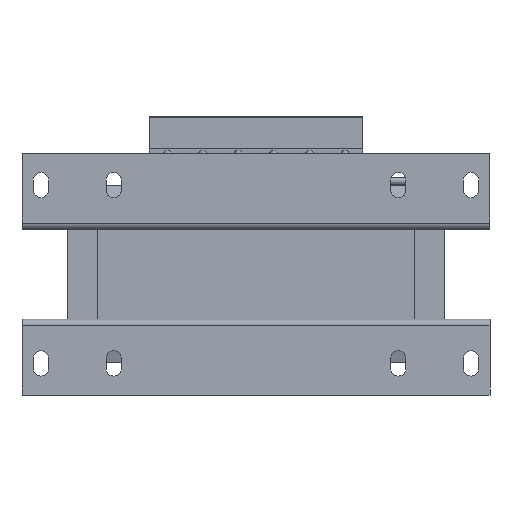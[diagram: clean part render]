
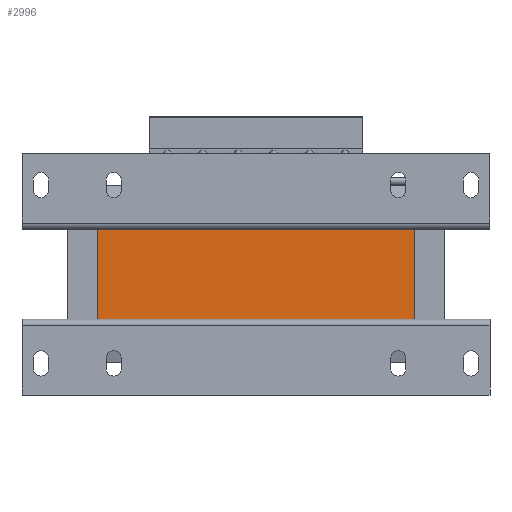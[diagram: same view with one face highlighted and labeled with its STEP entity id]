
A CAD part, front view. The second image highlights one B-rep face of the part: STEP entity #2996.
In plain terms, the highlighted planar face has unit normal (0, -1, 0).
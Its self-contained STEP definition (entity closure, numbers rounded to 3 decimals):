
#606 = CARTESIAN_POINT ( 'NONE',  ( -50., 6.5, 15.2 ) ) ;
#1645 = LINE ( 'NONE', #606, #13788 ) ;
#2106 = EDGE_CURVE ( 'NONE', #11095, #10609, #7845, .T. ) ;
#2742 = DIRECTION ( 'NONE',  ( 0., 0., -1. ) ) ;
#2812 = AXIS2_PLACEMENT_3D ( 'NONE', #2856, #5060, #7347 ) ;
#2856 = CARTESIAN_POINT ( 'NONE',  ( -50., 6.5, 15.2 ) ) ;
#2996 = ADVANCED_FACE ( 'NONE', ( #11811 ), #12990, .F. ) ;
#3079 = EDGE_CURVE ( 'NONE', #10032, #11095, #7272, .T. ) ;
#3180 = EDGE_CURVE ( 'NONE', #4018, #10609, #13204, .T. ) ;
#3942 = ORIENTED_EDGE ( 'NONE', *, *, #2106, .F. ) ;
#3950 = CARTESIAN_POINT ( 'NONE',  ( -50., 6.5, -14.2 ) ) ;
#3963 = VECTOR ( 'NONE', #7644, 1000. ) ;
#4018 = VERTEX_POINT ( 'NONE', #3950 ) ;
#4020 = CARTESIAN_POINT ( 'NONE',  ( -50., 6.5, 14.2 ) ) ;
#4368 = CARTESIAN_POINT ( 'NONE',  ( 50., 6.5, 14.2 ) ) ;
#4433 = EDGE_LOOP ( 'NONE', ( #3942, #11701, #5772, #7687 ) ) ;
#5060 = DIRECTION ( 'NONE',  ( 0., 1., 0. ) ) ;
#5629 = CARTESIAN_POINT ( 'NONE',  ( 50., 6.5, 15.2 ) ) ;
#5772 = ORIENTED_EDGE ( 'NONE', *, *, #8649, .T. ) ;
#6386 = CARTESIAN_POINT ( 'NONE',  ( -50., 6.5, -14.2 ) ) ;
#7272 = LINE ( 'NONE', #4020, #10130 ) ;
#7347 = DIRECTION ( 'NONE',  ( 0., 0., 1. ) ) ;
#7644 = DIRECTION ( 'NONE',  ( 1., 0., 0. ) ) ;
#7687 = ORIENTED_EDGE ( 'NONE', *, *, #3180, .T. ) ;
#7845 = LINE ( 'NONE', #5629, #10850 ) ;
#8649 = EDGE_CURVE ( 'NONE', #10032, #4018, #1645, .T. ) ;
#9994 = CARTESIAN_POINT ( 'NONE',  ( 50., 6.5, -14.2 ) ) ;
#10032 = VERTEX_POINT ( 'NONE', #11641 ) ;
#10130 = VECTOR ( 'NONE', #13059, 1000. ) ;
#10158 = DIRECTION ( 'NONE',  ( 0., 0., -1. ) ) ;
#10609 = VERTEX_POINT ( 'NONE', #9994 ) ;
#10850 = VECTOR ( 'NONE', #10158, 1000. ) ;
#11095 = VERTEX_POINT ( 'NONE', #4368 ) ;
#11641 = CARTESIAN_POINT ( 'NONE',  ( -50., 6.5, 14.2 ) ) ;
#11701 = ORIENTED_EDGE ( 'NONE', *, *, #3079, .F. ) ;
#11811 = FACE_OUTER_BOUND ( 'NONE', #4433, .T. ) ;
#12990 = PLANE ( 'NONE',  #2812 ) ;
#13059 = DIRECTION ( 'NONE',  ( 1., 0., 0. ) ) ;
#13204 = LINE ( 'NONE', #6386, #3963 ) ;
#13788 = VECTOR ( 'NONE', #2742, 1000. ) ;
